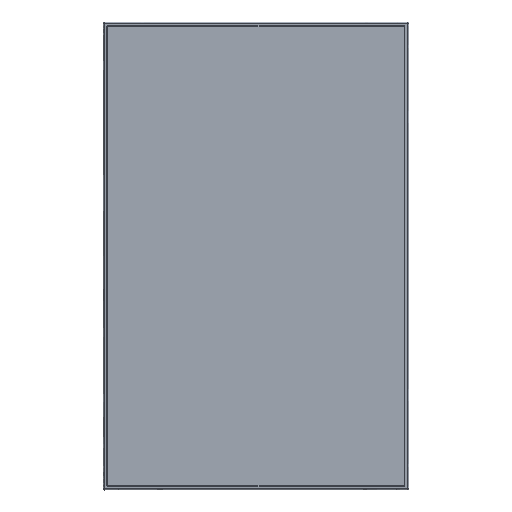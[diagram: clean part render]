
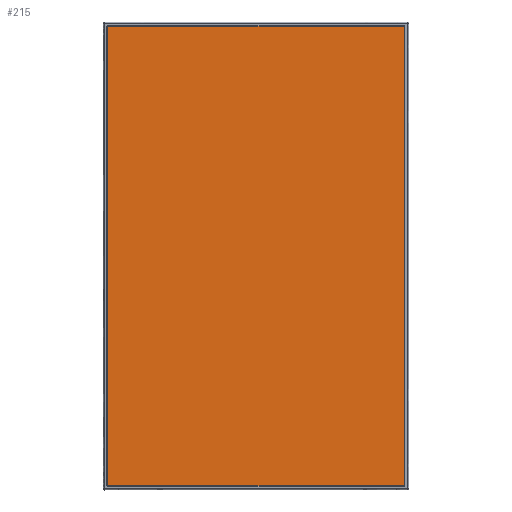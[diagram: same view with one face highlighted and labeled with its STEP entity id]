
A CAD part, top view. The second image highlights one B-rep face of the part: STEP entity #215.
In plain terms, the highlighted free-form (B-spline) face has degree [1, 1] with [2, 2] control points.
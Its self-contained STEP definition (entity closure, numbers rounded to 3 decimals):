
#88=(
BOUNDED_CURVE()
B_SPLINE_CURVE(2,(#1682,#1683,#1684),.UNSPECIFIED.,.F.,.F.)
B_SPLINE_CURVE_WITH_KNOTS((3,3),(0.,0.942),.UNSPECIFIED.)
CURVE()
GEOMETRIC_REPRESENTATION_ITEM()
RATIONAL_B_SPLINE_CURVE((1.,0.707,1.))
REPRESENTATION_ITEM('')
);
#89=(
BOUNDED_CURVE()
B_SPLINE_CURVE(2,(#1687,#1688,#1689),.UNSPECIFIED.,.F.,.F.)
B_SPLINE_CURVE_WITH_KNOTS((3,3),(0.,0.942),.UNSPECIFIED.)
CURVE()
GEOMETRIC_REPRESENTATION_ITEM()
RATIONAL_B_SPLINE_CURVE((1.,0.707,1.))
REPRESENTATION_ITEM('')
);
#90=(
BOUNDED_CURVE()
B_SPLINE_CURVE(2,(#1692,#1693,#1694),.UNSPECIFIED.,.F.,.F.)
B_SPLINE_CURVE_WITH_KNOTS((3,3),(0.,0.942),.UNSPECIFIED.)
CURVE()
GEOMETRIC_REPRESENTATION_ITEM()
RATIONAL_B_SPLINE_CURVE((1.,0.707,1.))
REPRESENTATION_ITEM('')
);
#91=(
BOUNDED_CURVE()
B_SPLINE_CURVE(2,(#1697,#1698,#1699),.UNSPECIFIED.,.F.,.F.)
B_SPLINE_CURVE_WITH_KNOTS((3,3),(0.,0.942),.UNSPECIFIED.)
CURVE()
GEOMETRIC_REPRESENTATION_ITEM()
RATIONAL_B_SPLINE_CURVE((1.,0.707,1.))
REPRESENTATION_ITEM('')
);
#215=ADVANCED_FACE('',(#278),#856,.T.);
#278=FACE_OUTER_BOUND('',#342,.T.);
#342=EDGE_LOOP('',(#574,#575,#576,#577,#578,#579,#580,#581));
#574=ORIENTED_EDGE('',*,*,#727,.T.);
#575=ORIENTED_EDGE('',*,*,#728,.F.);
#576=ORIENTED_EDGE('',*,*,#729,.T.);
#577=ORIENTED_EDGE('',*,*,#730,.T.);
#578=ORIENTED_EDGE('',*,*,#731,.T.);
#579=ORIENTED_EDGE('',*,*,#732,.T.);
#580=ORIENTED_EDGE('',*,*,#733,.T.);
#581=ORIENTED_EDGE('',*,*,#725,.F.);
#725=EDGE_CURVE('',#812,#813,#923,.T.);
#727=EDGE_CURVE('',#812,#814,#88,.T.);
#728=EDGE_CURVE('',#815,#814,#924,.T.);
#729=EDGE_CURVE('',#815,#816,#89,.T.);
#730=EDGE_CURVE('',#816,#817,#925,.T.);
#731=EDGE_CURVE('',#817,#818,#90,.T.);
#732=EDGE_CURVE('',#818,#819,#926,.T.);
#733=EDGE_CURVE('',#819,#813,#91,.T.);
#812=VERTEX_POINT('',#4393);
#813=VERTEX_POINT('',#4394);
#814=VERTEX_POINT('',#4395);
#815=VERTEX_POINT('',#4396);
#816=VERTEX_POINT('',#4397);
#817=VERTEX_POINT('',#4398);
#818=VERTEX_POINT('',#4399);
#819=VERTEX_POINT('',#4400);
#856=B_SPLINE_SURFACE_WITH_KNOTS('',1,1,((#4317,#4318),(#4319,#4320)),.UNSPECIFIED.,
.F.,.F.,.F.,(2,2),(2,2),(0.,1.),(0.,1.),.UNSPECIFIED.);
#923=B_SPLINE_CURVE_WITH_KNOTS('',1,(#1678,#1679),.UNSPECIFIED.,.F.,.F.,
(2,2),(0.001,0.999),.UNSPECIFIED.);
#924=B_SPLINE_CURVE_WITH_KNOTS('',1,(#1685,#1686),.UNSPECIFIED.,.F.,.F.,
(2,2),(0.001,0.999),.UNSPECIFIED.);
#925=B_SPLINE_CURVE_WITH_KNOTS('',1,(#1690,#1691),.UNSPECIFIED.,.F.,.F.,
(2,2),(0.001,0.999),.UNSPECIFIED.);
#926=B_SPLINE_CURVE_WITH_KNOTS('',1,(#1695,#1696),.UNSPECIFIED.,.F.,.F.,
(2,2),(0.001,0.999),.UNSPECIFIED.);
#1678=CARTESIAN_POINT('',(-255.415,395.951,5.59));
#1679=CARTESIAN_POINT('',(255.395,395.951,5.59));
#1682=CARTESIAN_POINT('',(-255.415,395.951,5.59));
#1683=CARTESIAN_POINT('',(-256.015,395.951,5.59));
#1684=CARTESIAN_POINT('',(-256.015,395.351,5.59));
#1685=CARTESIAN_POINT('',(-256.015,-395.399,5.59));
#1686=CARTESIAN_POINT('',(-256.015,395.351,5.59));
#1687=CARTESIAN_POINT('',(-256.015,-395.399,5.59));
#1688=CARTESIAN_POINT('',(-256.015,-395.999,5.59));
#1689=CARTESIAN_POINT('',(-255.415,-395.999,5.59));
#1690=CARTESIAN_POINT('',(-255.415,-395.999,5.59));
#1691=CARTESIAN_POINT('',(255.395,-395.999,5.59));
#1692=CARTESIAN_POINT('',(255.395,-395.999,5.59));
#1693=CARTESIAN_POINT('',(255.995,-395.999,5.59));
#1694=CARTESIAN_POINT('',(255.995,-395.399,5.59));
#1695=CARTESIAN_POINT('',(255.995,-395.399,5.59));
#1696=CARTESIAN_POINT('',(255.995,395.351,5.59));
#1697=CARTESIAN_POINT('',(255.995,395.351,5.59));
#1698=CARTESIAN_POINT('',(255.995,395.951,5.59));
#1699=CARTESIAN_POINT('',(255.395,395.951,5.59));
#4317=CARTESIAN_POINT('',(-256.015,-395.999,5.59));
#4318=CARTESIAN_POINT('',(-256.015,395.951,5.59));
#4319=CARTESIAN_POINT('',(255.995,-395.999,5.59));
#4320=CARTESIAN_POINT('',(255.995,395.951,5.59));
#4393=CARTESIAN_POINT('',(-255.415,395.951,5.59));
#4394=CARTESIAN_POINT('',(255.395,395.951,5.59));
#4395=CARTESIAN_POINT('',(-256.015,395.351,5.59));
#4396=CARTESIAN_POINT('',(-256.015,-395.399,5.59));
#4397=CARTESIAN_POINT('',(-255.415,-395.999,5.59));
#4398=CARTESIAN_POINT('',(255.395,-395.999,5.59));
#4399=CARTESIAN_POINT('',(255.995,-395.399,5.59));
#4400=CARTESIAN_POINT('',(255.995,395.351,5.59));
